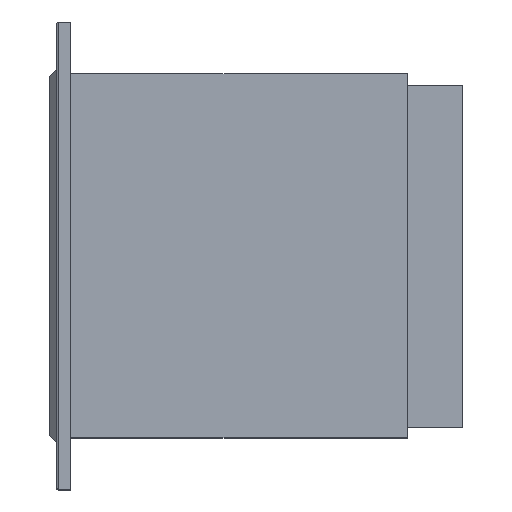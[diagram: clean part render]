
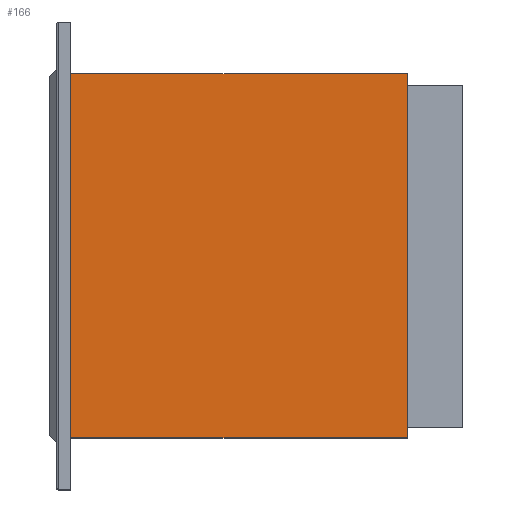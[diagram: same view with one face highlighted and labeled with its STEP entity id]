
A CAD part, top view. The second image highlights one B-rep face of the part: STEP entity #166.
In plain terms, the highlighted planar face has unit normal (0, 0, 1).
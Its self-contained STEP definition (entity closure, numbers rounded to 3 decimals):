
#9 = ORIENTED_EDGE ( 'NONE', *, *, #631, .F. ) ;
#37 = LINE ( 'NONE', #190, #767 ) ;
#75 = ORIENTED_EDGE ( 'NONE', *, *, #258, .T. ) ;
#112 = CARTESIAN_POINT ( 'NONE',  ( 3., 39.75, 25.75 ) ) ;
#117 = VERTEX_POINT ( 'NONE', #644 ) ;
#145 = CARTESIAN_POINT ( 'NONE',  ( 76.5, 39.75, 25.75 ) ) ;
#166 = ADVANCED_FACE ( 'NONE', ( #636 ), #321, .F. ) ;
#190 = CARTESIAN_POINT ( 'NONE',  ( 76.5, -39.75, 25.75 ) ) ;
#194 = VERTEX_POINT ( 'NONE', #145 ) ;
#211 = VERTEX_POINT ( 'NONE', #112 ) ;
#258 = EDGE_CURVE ( 'NONE', #194, #211, #714, .T. ) ;
#260 = DIRECTION ( 'NONE',  ( 0., -1., 0. ) ) ;
#299 = DIRECTION ( 'NONE',  ( -1., 0., 0. ) ) ;
#306 = DIRECTION ( 'NONE',  ( 0., 0., -1. ) ) ;
#309 = LINE ( 'NONE', #456, #530 ) ;
#314 = CARTESIAN_POINT ( 'NONE',  ( 76.5, -39.75, 25.75 ) ) ;
#320 = EDGE_CURVE ( 'NONE', #117, #474, #309, .T. ) ;
#321 = PLANE ( 'NONE',  #774 ) ;
#330 = VECTOR ( 'NONE', #585, 1000. ) ;
#358 = CARTESIAN_POINT ( 'NONE',  ( 76.5, 39.75, 25.75 ) ) ;
#361 = DIRECTION ( 'NONE',  ( -1., 0., 0. ) ) ;
#438 = ORIENTED_EDGE ( 'NONE', *, *, #489, .T. ) ;
#456 = CARTESIAN_POINT ( 'NONE',  ( 76.5, -39.75, 25.75 ) ) ;
#474 = VERTEX_POINT ( 'NONE', #798 ) ;
#489 = EDGE_CURVE ( 'NONE', #211, #474, #816, .T. ) ;
#530 = VECTOR ( 'NONE', #361, 1000. ) ;
#585 = DIRECTION ( 'NONE',  ( -1., 0., 0. ) ) ;
#624 = VECTOR ( 'NONE', #660, 1000. ) ;
#631 = EDGE_CURVE ( 'NONE', #194, #117, #37, .T. ) ;
#636 = FACE_OUTER_BOUND ( 'NONE', #768, .T. ) ;
#644 = CARTESIAN_POINT ( 'NONE',  ( 76.5, -39.75, 25.75 ) ) ;
#660 = DIRECTION ( 'NONE',  ( 0., -1., 0. ) ) ;
#713 = CARTESIAN_POINT ( 'NONE',  ( 3., -39.75, 25.75 ) ) ;
#714 = LINE ( 'NONE', #358, #330 ) ;
#719 = ORIENTED_EDGE ( 'NONE', *, *, #320, .F. ) ;
#767 = VECTOR ( 'NONE', #260, 1000. ) ;
#768 = EDGE_LOOP ( 'NONE', ( #438, #719, #9, #75 ) ) ;
#774 = AXIS2_PLACEMENT_3D ( 'NONE', #314, #306, #299 ) ;
#798 = CARTESIAN_POINT ( 'NONE',  ( 3., -39.75, 25.75 ) ) ;
#816 = LINE ( 'NONE', #713, #624 ) ;
